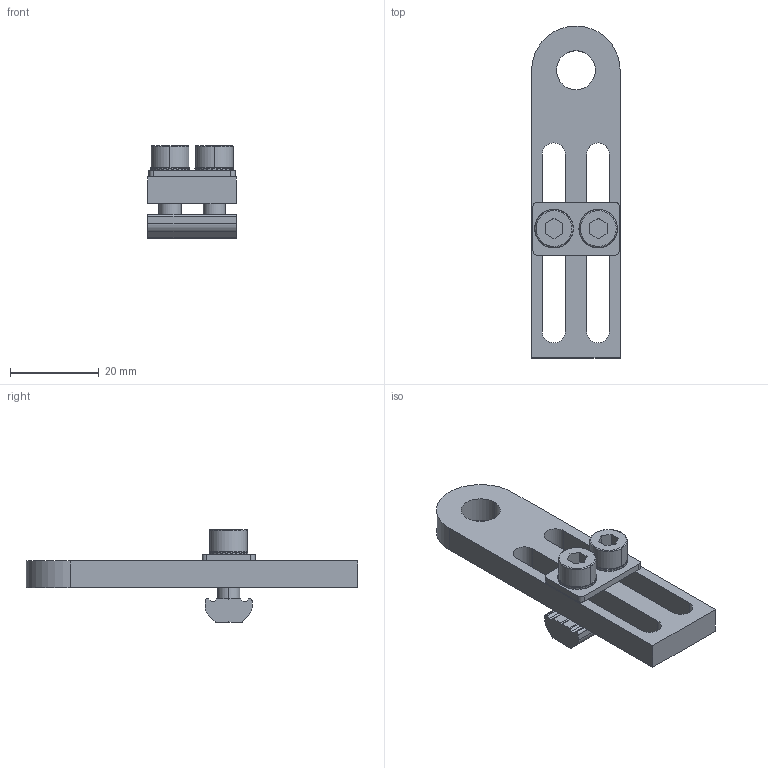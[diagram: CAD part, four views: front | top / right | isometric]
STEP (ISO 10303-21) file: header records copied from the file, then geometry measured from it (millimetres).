
FILE_DESCRIPTION (( 'STEP AP214' ), '1' );
FILE_NAME ('SMBE5-G1840T.STEP', '2023-03-03T01:20:13', ( 'Windows User' ), ( 'P R C' ), 'SwSTEP 2.0', 'SolidWorks 2019', '' );
FILE_SCHEMA (( 'AUTOMOTIVE_DESIGN' ));
Length unit declared in the file: millimetre
Products named in the file (1): SMBE5-G1840T
Bounding box: 20.05 x 75 x 21 mm (x, y, z)
Volume: 7880.1 mm3; surface area: 6893.3 mm2
Topology: 7 solids, 7 shells, 509 faces, 1476 edges, 977 vertices
Faces by surface type: plane 447, cylinder 54, torus 4, cone 4
Entity records: 22862 total; most frequent: CARTESIAN_POINT 3323, ORIENTED_EDGE 2952, DIRECTION 2943, EDGE_CURVE 1476, AXIS2_PLACEMENT_3D 991, VERTEX_POINT 977, VECTOR 961, LINE 961
